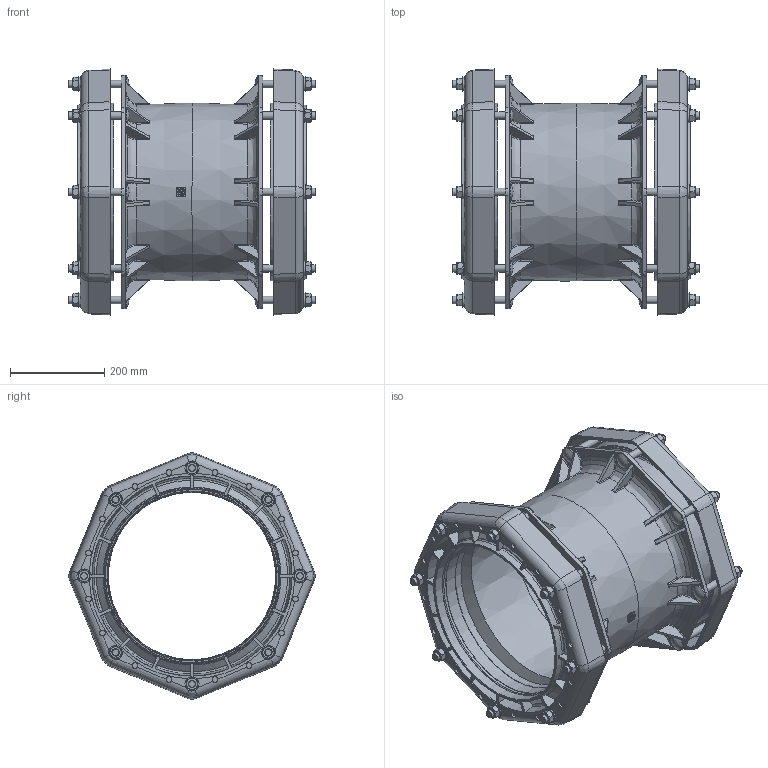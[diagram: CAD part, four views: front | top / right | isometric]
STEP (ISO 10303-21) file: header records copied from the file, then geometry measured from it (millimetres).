
FILE_DESCRIPTION((''),'2;1');
FILE_NAME('P:\Fastrack\54361_VIKING JOHNSON 3D\ULTRAGRIP\Component Parts\Components Built up\Coupling Assembly\300MM-UltraGrip-Coupling-Assembly.stp','2012-05-02T09:45:39',('dcole'),(''),'Autodesk Inventor 2008','Autodesk Inventor 2008','');
FILE_SCHEMA(('AUTOMOTIVE_DESIGN { 1 0 10303 214 1 1 1 1 }'));
Length unit declared in the file: millimetre
Products named in the file (1): 300MM-UltraGrip-Coupling-Assembly
Bounding box: 524 x 521.76 x 521.76 mm (x, y, z)
Volume: 8523669.7 mm3; surface area: 2356230 mm2
Topology: 1 solids, 1 shells, 1986 faces, 5534 edges, 3552 vertices
Faces by surface type: plane 677, cylinder 437, bspline 432, cone 389, torus 51
Full cylindrical faces by diameter (mm): 12.183 x32, 12.675 x1, 15.8 x32, 16 x16, 30 x16, 36 x16, 355.5 x2, 357.5 x4, 377.5 x2
Entity records: 95196 total; most frequent: CARTESIAN_POINT 45470, ORIENTED_EDGE 10570, DIRECTION 9165, EDGE_CURVE 5285, AXIS2_PLACEMENT_3D 3622, VERTEX_POINT 3485, EDGE_LOOP 2268, STYLED_ITEM 1987
